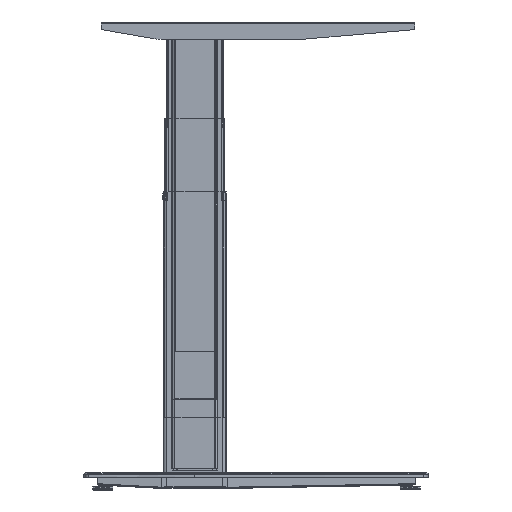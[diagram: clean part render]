
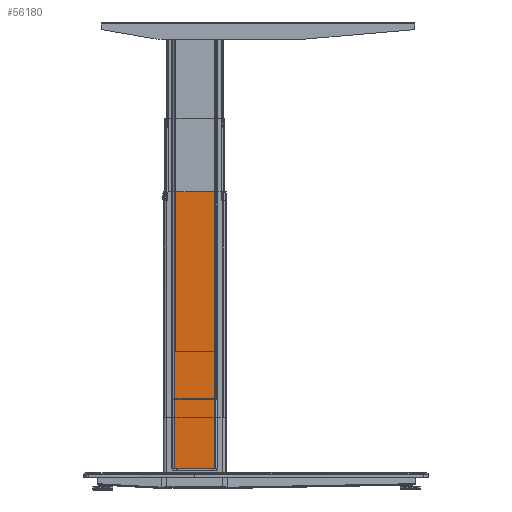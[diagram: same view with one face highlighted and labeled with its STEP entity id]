
A CAD part, left-side view. The second image highlights one B-rep face of the part: STEP entity #56180.
In plain terms, the highlighted planar face has unit normal (-1, 0, 0) as drawn and (0, -1, 0) by its records, which use the part's own axes.
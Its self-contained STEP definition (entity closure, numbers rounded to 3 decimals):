
#44 = LINE ( 'NONE', #65899, #14354 ) ;
#5593 = CARTESIAN_POINT ( 'NONE',  ( -39.49, 1.75, -88.017 ) ) ;
#6223 = LINE ( 'NONE', #57177, #66018 ) ;
#6399 = CARTESIAN_POINT ( 'NONE',  ( -39.49, 1.75, 585. ) ) ;
#8175 = AXIS2_PLACEMENT_3D ( 'NONE', #12647, #87532, #37765 ) ;
#12647 = CARTESIAN_POINT ( 'NONE',  ( -40., 1.75, -88.017 ) ) ;
#13114 = VERTEX_POINT ( 'NONE', #23664 ) ;
#14354 = VECTOR ( 'NONE', #90290, 1000. ) ;
#14818 = EDGE_CURVE ( 'NONE', #101766, #13114, #42348, .T. ) ;
#21049 = ORIENTED_EDGE ( 'NONE', *, *, #104332, .F. ) ;
#22571 = VECTOR ( 'NONE', #89595, 1000. ) ;
#22704 = VECTOR ( 'NONE', #71425, 1000. ) ;
#23664 = CARTESIAN_POINT ( 'NONE',  ( -39.49, 1.75, 37. ) ) ;
#24012 = DIRECTION ( 'NONE',  ( 0., 0., -1. ) ) ;
#28612 = ORIENTED_EDGE ( 'NONE', *, *, #14818, .F. ) ;
#31699 = EDGE_CURVE ( 'NONE', #104548, #49136, #44, .T. ) ;
#35772 = CARTESIAN_POINT ( 'NONE',  ( 39.49, 1.75, 585. ) ) ;
#37765 = DIRECTION ( 'NONE',  ( 0., 0., 1. ) ) ;
#42348 = LINE ( 'NONE', #46019, #22704 ) ;
#46019 = CARTESIAN_POINT ( 'NONE',  ( -40., 1.75, 37. ) ) ;
#46113 = PLANE ( 'NONE',  #8175 ) ;
#49136 = VERTEX_POINT ( 'NONE', #6399 ) ;
#56180 = ADVANCED_FACE ( 'NONE', ( #72930 ), #46113, .T. ) ;
#56371 = ORIENTED_EDGE ( 'NONE', *, *, #31699, .T. ) ;
#57177 = CARTESIAN_POINT ( 'NONE',  ( 39.49, 1.75, -88.017 ) ) ;
#65899 = CARTESIAN_POINT ( 'NONE',  ( -40., 1.75, 585. ) ) ;
#66018 = VECTOR ( 'NONE', #24012, 1000. ) ;
#70056 = CARTESIAN_POINT ( 'NONE',  ( 39.49, 1.75, 37. ) ) ;
#70342 = ORIENTED_EDGE ( 'NONE', *, *, #83502, .F. ) ;
#71425 = DIRECTION ( 'NONE',  ( -1., 0., 0. ) ) ;
#72930 = FACE_OUTER_BOUND ( 'NONE', #84622, .T. ) ;
#83502 = EDGE_CURVE ( 'NONE', #104548, #101766, #6223, .T. ) ;
#84622 = EDGE_LOOP ( 'NONE', ( #56371, #21049, #28612, #70342 ) ) ;
#87532 = DIRECTION ( 'NONE',  ( 0., -1., 0. ) ) ;
#89021 = LINE ( 'NONE', #5593, #22571 ) ;
#89595 = DIRECTION ( 'NONE',  ( 0., 0., 1. ) ) ;
#90290 = DIRECTION ( 'NONE',  ( -1., 0., 0. ) ) ;
#101766 = VERTEX_POINT ( 'NONE', #70056 ) ;
#104332 = EDGE_CURVE ( 'NONE', #13114, #49136, #89021, .T. ) ;
#104548 = VERTEX_POINT ( 'NONE', #35772 ) ;
